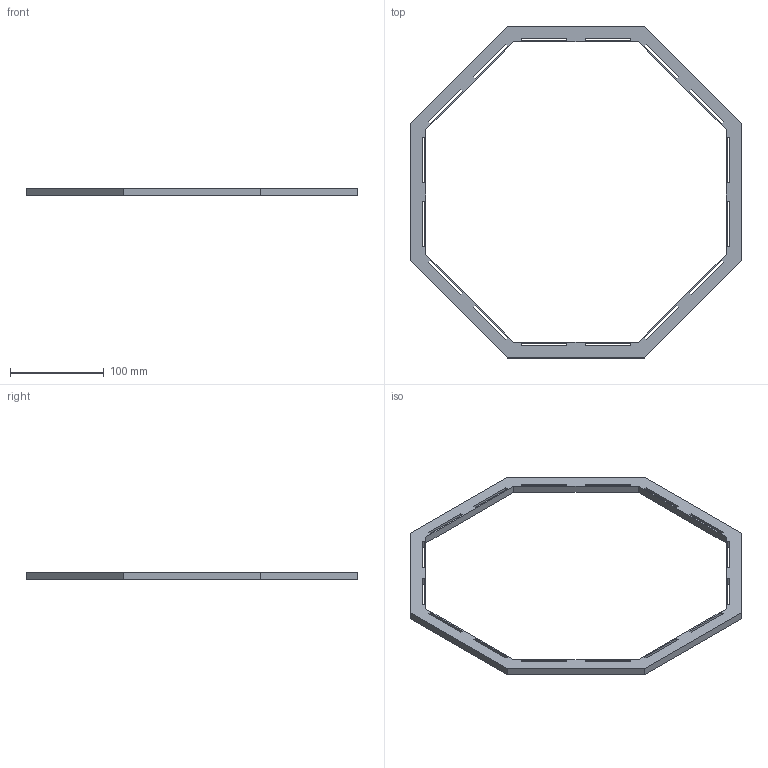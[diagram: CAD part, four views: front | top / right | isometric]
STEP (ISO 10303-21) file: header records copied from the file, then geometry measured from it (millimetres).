
FILE_DESCRIPTION(('Open CASCADE Model'),'2;1');
FILE_NAME('Open CASCADE Shape Model','2026-10-05T12:46:30',('Author'),( 'Open CASCADE'),'Open CASCADE STEP processor 7.9','Open CASCADE 7.9' ,'Unknown');
FILE_SCHEMA(('AUTOMOTIVE_DESIGN { 1 0 10303 214 1 1 1 1 }'));
Length unit declared in the file: millimetre
Products named in the file (1): Open CASCADE STEP translator 7.9 2
Bounding box: 355 x 355 x 8 mm (x, y, z)
Volume: 138638.8 mm3; surface area: 65585 mm2
Topology: 1 solids, 1 shells, 82 faces, 240 edges, 160 vertices
Faces by surface type: plane 82
Entity records: 5574 total; most frequent: CARTESIAN_POINT 1251, DIRECTION 598, ORIENTED_EDGE 480, PCURVE 480, DEFINITIONAL_REPRESENTATION 480, LINE 432, VECTOR 432, B_SPLINE_CURVE_WITH_KNOTS 288
